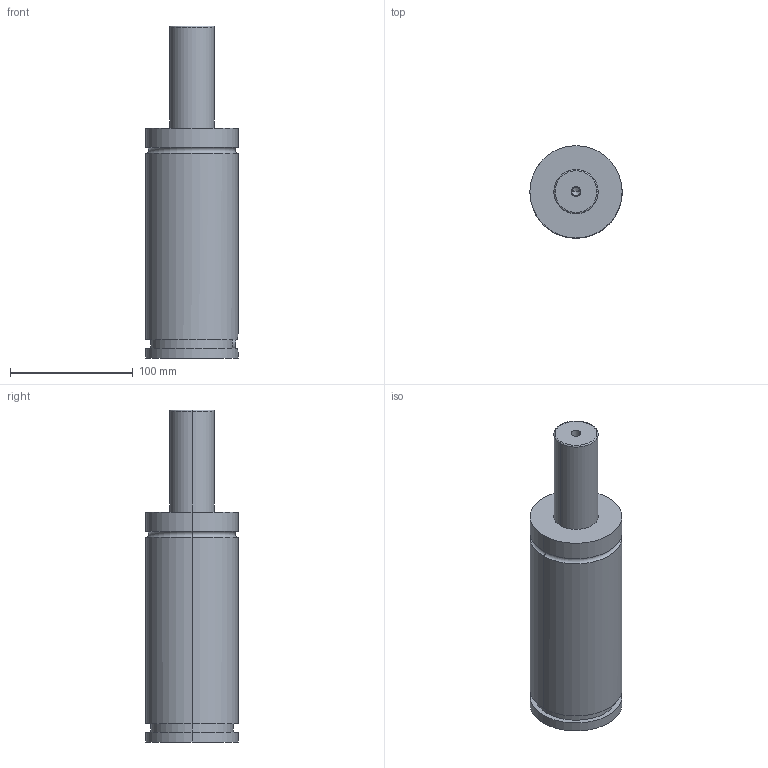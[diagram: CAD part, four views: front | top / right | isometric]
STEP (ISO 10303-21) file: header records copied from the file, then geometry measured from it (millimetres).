
FILE_DESCRIPTION(/* description */ (''),/* implementation_level */ '2;1');
FILE_NAME(/* name */ '3d_gse75-80_03857_r00.stp',/* time_stamp */ '2011-01-10T14:15:18+09:00',/* author */ ('MISUMI'),/* organization */ (''),/* preprocessor_version */ 'ST-DEVELOPER v11',/* originating_system */ 'UGS - NX 5.0',/* authorisation */ '');
FILE_SCHEMA (('CONFIG_CONTROL_DESIGN'));
Length unit declared in the file: millimetre
Products named in the file (1): 3d_gse75-80_03857_r00
Bounding box: 75 x 75 x 270 mm (x, y, z)
Volume: 897428.1 mm3; surface area: 66905.4 mm2
Topology: 1 solids, 1 shells, 75 faces, 161 edges, 103 vertices
Faces by surface type: cylinder 34, plane 27, cone 10, torus 4
Entity records: 2145 total; most frequent: DIRECTION 393, CARTESIAN_POINT 360, ORIENTED_EDGE 318, AXIS2_PLACEMENT_3D 164, EDGE_CURVE 159, VERTEX_POINT 103, EDGE_LOOP 92, CIRCLE 88
